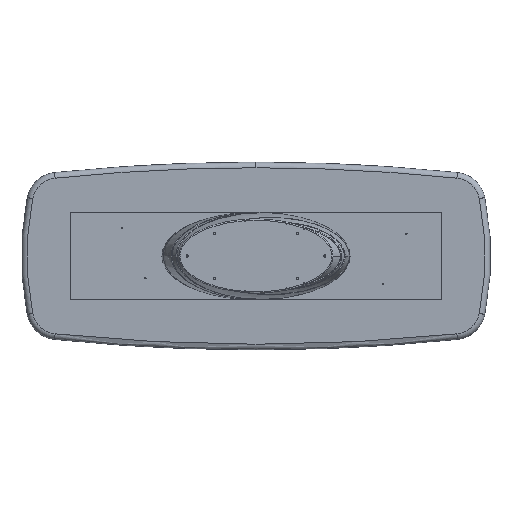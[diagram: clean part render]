
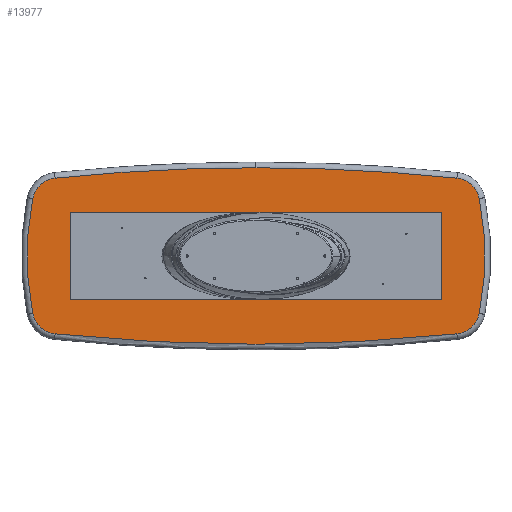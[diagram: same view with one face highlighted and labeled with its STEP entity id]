
A CAD part, front view. The second image highlights one B-rep face of the part: STEP entity #13977.
In plain terms, the highlighted planar face has unit normal (0, -1, 0).
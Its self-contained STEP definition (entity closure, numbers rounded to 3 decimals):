
#47 = VERTEX_POINT ( 'NONE', #35337 ) ;
#329 = CIRCLE ( 'NONE', #24477, 1864. ) ;
#527 = DIRECTION ( 'NONE',  ( 0., 0., 1. ) ) ;
#623 = ORIENTED_EDGE ( 'NONE', *, *, #8835, .T. ) ;
#1521 = DIRECTION ( 'NONE',  ( 0., -1., 0. ) ) ;
#1689 = AXIS2_PLACEMENT_3D ( 'NONE', #22095, #25129, #12036 ) ;
#1709 = CARTESIAN_POINT ( 'NONE',  ( 1266.747, 40., 334.597 ) ) ;
#1755 = EDGE_CURVE ( 'NONE', #23165, #7288, #6174, .T. ) ;
#2038 = DIRECTION ( 'NONE',  ( 0., -1., 0. ) ) ;
#3621 = VERTEX_POINT ( 'NONE', #28553 ) ;
#3699 = AXIS2_PLACEMENT_3D ( 'NONE', #34165, #2038, #8258 ) ;
#3986 = CARTESIAN_POINT ( 'NONE',  ( 1283.637, 40., -497.724 ) ) ;
#4349 = CARTESIAN_POINT ( 'NONE',  ( 400., 40., 0. ) ) ;
#4703 = DIRECTION ( 'NONE',  ( 0., 0., 1. ) ) ;
#6174 = CIRCLE ( 'NONE', #9783, 1864. ) ;
#6800 = CARTESIAN_POINT ( 'NONE',  ( -1266.747, 40., 334.597 ) ) ;
#6951 = DIRECTION ( 'NONE',  ( 0., 0., 1. ) ) ;
#7288 = VERTEX_POINT ( 'NONE', #26484 ) ;
#7886 = VERTEX_POINT ( 'NONE', #3986 ) ;
#8258 = DIRECTION ( 'NONE',  ( 0., 0., 1. ) ) ;
#8835 = EDGE_CURVE ( 'NONE', #26199, #24627, #29163, .T. ) ;
#8870 = CARTESIAN_POINT ( 'NONE',  ( 1283.637, 40., 497.724 ) ) ;
#9240 = CIRCLE ( 'NONE', #28588, 164. ) ;
#9437 = CARTESIAN_POINT ( 'NONE',  ( 0., 40., 564. ) ) ;
#9783 = AXIS2_PLACEMENT_3D ( 'NONE', #4349, #1521, #527 ) ;
#10369 = CARTESIAN_POINT ( 'NONE',  ( 0., 40., -11900. ) ) ;
#10869 = EDGE_CURVE ( 'NONE', #36952, #47, #329, .T. ) ;
#10948 = DIRECTION ( 'NONE',  ( 0., -1., 0. ) ) ;
#12036 = DIRECTION ( 'NONE',  ( 0., 0., 1. ) ) ;
#12359 = DIRECTION ( 'NONE',  ( 0., 0., 1. ) ) ;
#12542 = EDGE_CURVE ( 'NONE', #29776, #23165, #35331, .T. ) ;
#12757 = ORIENTED_EDGE ( 'NONE', *, *, #33894, .T. ) ;
#13977 = ADVANCED_FACE ( 'NONE', ( #15446 ), #24731, .F. ) ;
#14256 = EDGE_CURVE ( 'NONE', #7288, #3621, #29659, .T. ) ;
#14638 = DIRECTION ( 'NONE',  ( 0., -1., 0. ) ) ;
#14828 = CARTESIAN_POINT ( 'NONE',  ( 1427.539, 40., -366.875 ) ) ;
#15446 = FACE_OUTER_BOUND ( 'NONE', #35782, .T. ) ;
#16760 = ORIENTED_EDGE ( 'NONE', *, *, #32803, .T. ) ;
#17080 = AXIS2_PLACEMENT_3D ( 'NONE', #19939, #14638, #28273 ) ;
#17849 = DIRECTION ( 'NONE',  ( 0., -1., 0. ) ) ;
#18250 = CARTESIAN_POINT ( 'NONE',  ( 1266.747, 40., -334.597 ) ) ;
#18325 = DIRECTION ( 'NONE',  ( 0., 0., 1. ) ) ;
#18807 = AXIS2_PLACEMENT_3D ( 'NONE', #22063, #24142, #6951 ) ;
#18840 = ORIENTED_EDGE ( 'NONE', *, *, #14256, .T. ) ;
#19055 = AXIS2_PLACEMENT_3D ( 'NONE', #6800, #23436, #18325 ) ;
#19781 = CIRCLE ( 'NONE', #1689, 12464. ) ;
#19939 = CARTESIAN_POINT ( 'NONE',  ( 0., 40., -11900. ) ) ;
#20682 = CARTESIAN_POINT ( 'NONE',  ( -400., 40., 0. ) ) ;
#21017 = ORIENTED_EDGE ( 'NONE', *, *, #33236, .T. ) ;
#21328 = AXIS2_PLACEMENT_3D ( 'NONE', #18250, #32622, #32818 ) ;
#22063 = CARTESIAN_POINT ( 'NONE',  ( -633.373, 40., -5782.702 ) ) ;
#22095 = CARTESIAN_POINT ( 'NONE',  ( 0., 40., 11900. ) ) ;
#22473 = DIRECTION ( 'NONE',  ( 0., 0., 1. ) ) ;
#23165 = VERTEX_POINT ( 'NONE', #33806 ) ;
#23436 = DIRECTION ( 'NONE',  ( 0., -1., 0. ) ) ;
#23735 = EDGE_CURVE ( 'NONE', #3621, #7886, #19781, .T. ) ;
#23738 = CIRCLE ( 'NONE', #31617, 12464. ) ;
#24142 = DIRECTION ( 'NONE',  ( 0., 1., 0. ) ) ;
#24477 = AXIS2_PLACEMENT_3D ( 'NONE', #20682, #17849, #12359 ) ;
#24627 = VERTEX_POINT ( 'NONE', #9437 ) ;
#24731 = PLANE ( 'NONE',  #18807 ) ;
#24909 = CARTESIAN_POINT ( 'NONE',  ( -1283.637, 40., 497.724 ) ) ;
#25129 = DIRECTION ( 'NONE',  ( 0., -1., 0. ) ) ;
#26199 = VERTEX_POINT ( 'NONE', #8870 ) ;
#26484 = CARTESIAN_POINT ( 'NONE',  ( -1427.539, 40., -366.875 ) ) ;
#28273 = DIRECTION ( 'NONE',  ( 0., 0., 1. ) ) ;
#28553 = CARTESIAN_POINT ( 'NONE',  ( -1283.637, 40., -497.724 ) ) ;
#28588 = AXIS2_PLACEMENT_3D ( 'NONE', #1709, #10948, #22473 ) ;
#29163 = CIRCLE ( 'NONE', #17080, 12464. ) ;
#29659 = CIRCLE ( 'NONE', #3699, 164. ) ;
#29776 = VERTEX_POINT ( 'NONE', #24909 ) ;
#30407 = CIRCLE ( 'NONE', #21328, 164. ) ;
#30607 = DIRECTION ( 'NONE',  ( 0., -1., 0. ) ) ;
#31617 = AXIS2_PLACEMENT_3D ( 'NONE', #10369, #30607, #4703 ) ;
#32622 = DIRECTION ( 'NONE',  ( 0., -1., 0. ) ) ;
#32803 = EDGE_CURVE ( 'NONE', #47, #26199, #9240, .T. ) ;
#32818 = DIRECTION ( 'NONE',  ( 0., 0., 1. ) ) ;
#33236 = EDGE_CURVE ( 'NONE', #7886, #36952, #30407, .T. ) ;
#33806 = CARTESIAN_POINT ( 'NONE',  ( -1427.539, 40., 366.875 ) ) ;
#33894 = EDGE_CURVE ( 'NONE', #24627, #29776, #23738, .T. ) ;
#34165 = CARTESIAN_POINT ( 'NONE',  ( -1266.747, 40., -334.597 ) ) ;
#35331 = CIRCLE ( 'NONE', #19055, 164. ) ;
#35337 = CARTESIAN_POINT ( 'NONE',  ( 1427.539, 40., 366.875 ) ) ;
#35782 = EDGE_LOOP ( 'NONE', ( #16760, #623, #12757, #36733, #36221, #18840, #37173, #21017, #35833 ) ) ;
#35833 = ORIENTED_EDGE ( 'NONE', *, *, #10869, .T. ) ;
#36221 = ORIENTED_EDGE ( 'NONE', *, *, #1755, .T. ) ;
#36733 = ORIENTED_EDGE ( 'NONE', *, *, #12542, .T. ) ;
#36952 = VERTEX_POINT ( 'NONE', #14828 ) ;
#37173 = ORIENTED_EDGE ( 'NONE', *, *, #23735, .T. ) ;
